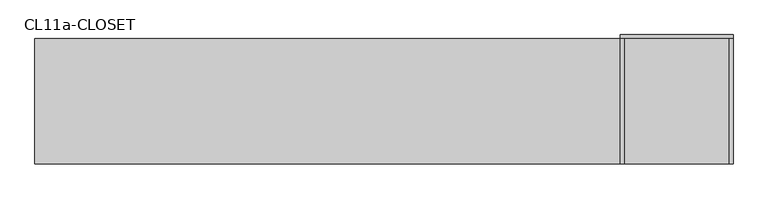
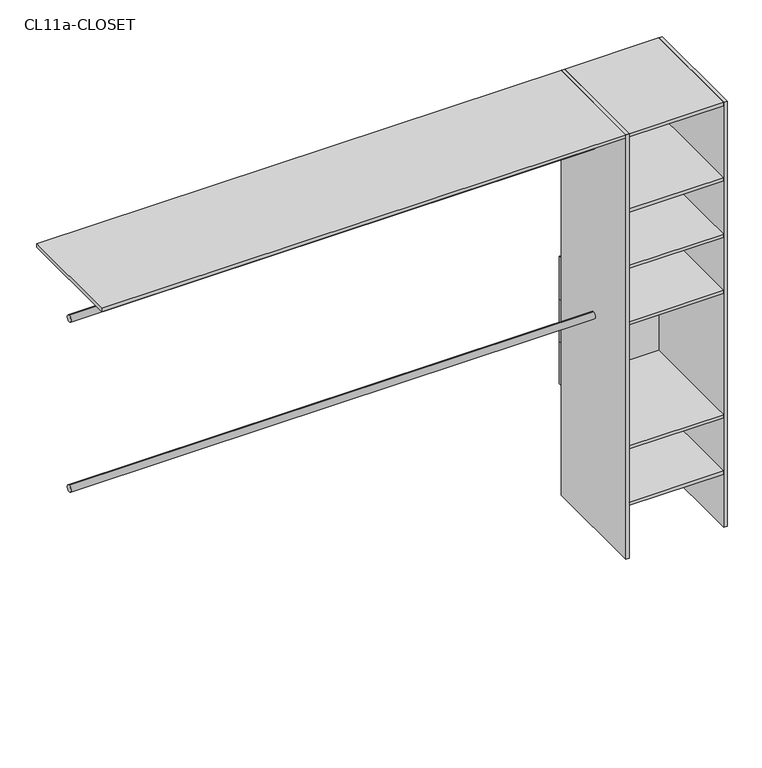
"""IFC4 building model written with IfcOpenShell, lengths in millimetres: furniture geometry, Closet 1estantes-1tubos_sin laterales : CL11a-CLOSET."""

from ifc_helpers import new_model, si_unit, point, frame, frame_2d, origin, origin_with_axes, place, context, project, spatial, polyline, circle_curve, trimmed, segment, composite_curve, outline, extrude, source, transform, mapped, element, save


def cl11a_closet_d79f7d52(model_context):
    return source(origin(), model_context, "Body", "SweptSolid", [
        extrude(outline(polyline([(225.0, -100.0), (225.0, -600.0), (210.0, -600.0), (210.0, -100.0), (225.0, -100.0)])), origin_with_axes(), (0.0, 0.0, 1.0), 2000.0),
        extrude(outline(polyline([(-210.0, -100.0), (-210.0, -600.0), (-225.0, -600.0), (-225.0, -100.0), (-210.0, -100.0)])), origin_with_axes(), (0.0, 0.0, 1.0), 2000.0),
        extrude(outline(polyline([(225.0, -100.0), (-225.0, -100.0), (-225.0, -85.0), (225.0, -85.0), (225.0, -100.0)])), frame((0.0, 0.0, 915.0), z_axis=(0.0, 0.0, 1.0), x_axis=(1.0, 0.0, 0.0)), (0.0, 0.0, 1.0), 200.0),
        extrude(outline(polyline([(225.0, -100.0), (-225.0, -100.0), (-225.0, -85.0), (225.0, -85.0), (225.0, -100.0)])), frame((0.0, 0.0, 715.0), z_axis=(0.0, 0.0, 1.0), x_axis=(1.0, 0.0, 0.0)), (0.0, 0.0, 1.0), 200.0),
        extrude(outline(polyline([(225.0, -100.0), (-225.0, -100.0), (-225.0, -85.0), (225.0, -85.0), (225.0, -100.0)])), frame((0.0, 0.0, 515.0), z_axis=(0.0, 0.0, 1.0), x_axis=(1.0, 0.0, 0.0)), (0.0, 0.0, 1.0), 200.0),
        extrude(outline(polyline([(210.0, -100.0), (210.0, -600.0), (-210.0, -600.0), (-210.0, -100.0), (210.0, -100.0)])), frame((0.0, 0.0, 1100.0), z_axis=(0.0, 0.0, 1.0), x_axis=(1.0, 0.0, 0.0)), (0.0, 0.0, 1.0), 15.0),
        extrude(outline(composite_curve([segment(trimmed(circle_curve(frame_2d((-350.0, 1000.0)), 15.0), [point((-350.0, 1015.0))], [point((-350.0, 985.0))], False, "CARTESIAN"), True, "CONTINUOUS"), segment(trimmed(circle_curve(frame_2d((-350.0, 1000.0)), 15.0), [point((-350.0, 985.0))], [point((-350.0, 1015.0))], False, "CARTESIAN"), True, "CONTINUOUS")], self_intersect=False)), frame((-2560.0, 0.0, 0.0), z_axis=(1.0, 0.0, 0.0), x_axis=(0.0, 1.0, 0.0)), (0.0, 0.0, 1.0), 2335.0),
        extrude(outline(composite_curve([segment(trimmed(circle_curve(frame_2d((-350.0, 1800.0)), 15.0), [point((-350.0, 1815.0))], [point((-350.0, 1785.0))], False, "CARTESIAN"), True, "CONTINUOUS"), segment(trimmed(circle_curve(frame_2d((-350.0, 1800.0)), 15.0), [point((-350.0, 1785.0))], [point((-350.0, 1815.0))], False, "CARTESIAN"), True, "CONTINUOUS")], self_intersect=False)), frame((-2560.0, 0.0, 0.0), z_axis=(1.0, 0.0, 0.0), x_axis=(0.0, 1.0, 0.0)), (0.0, 0.0, 1.0), 2335.0),
        extrude(outline(polyline([(210.0, -100.0), (210.0, -600.0), (-210.0, -600.0), (-210.0, -100.0), (210.0, -100.0)])), frame((0.0, 0.0, 250.0), z_axis=(0.0, 0.0, 1.0), x_axis=(1.0, 0.0, 0.0)), (0.0, 0.0, 1.0), 15.0),
        extrude(outline(polyline([(210.0, -100.0), (210.0, -600.0), (-210.0, -600.0), (-210.0, -100.0), (210.0, -100.0)])), frame((0.0, 0.0, 515.0), z_axis=(0.0, 0.0, 1.0), x_axis=(1.0, 0.0, 0.0)), (0.0, 0.0, 1.0), 15.0),
        extrude(outline(polyline([(210.0, -100.0), (210.0, -600.0), (-210.0, -600.0), (-210.0, -100.0), (210.0, -100.0)])), frame((0.0, 0.0, 1365.0), z_axis=(0.0, 0.0, 1.0), x_axis=(1.0, 0.0, 0.0)), (0.0, 0.0, 1.0), 15.0),
        extrude(outline(polyline([(210.0, -100.0), (210.0, -600.0), (-210.0, -600.0), (-210.0, -100.0), (210.0, -100.0)])), frame((0.0, 0.0, 1630.0), z_axis=(0.0, 0.0, 1.0), x_axis=(1.0, 0.0, 0.0)), (0.0, 0.0, 1.0), 15.0),
        extrude(outline(polyline([(-210.0, -100.0), (-210.0, -600.0), (-2560.0, -600.0), (-2560.0, -100.0), (-210.0, -100.0)])), frame((0.0, 0.0, 1985.0), z_axis=(0.0, 0.0, 1.0), x_axis=(1.0, 0.0, 0.0)), (0.0, 0.0, 1.0), 15.0),
        extrude(outline(polyline([(210.0, -100.0), (210.0, -600.0), (-210.0, -600.0), (-210.0, -100.0), (210.0, -100.0)])), frame((0.0, 0.0, 1985.0), z_axis=(0.0, 0.0, 1.0), x_axis=(1.0, 0.0, 0.0)), (0.0, 0.0, 1.0), 15.0),
    ])


if __name__ == "__main__":
    model = new_model("IFC4")
    model_context = context("Model", 3, world=origin())
    ifc_project = project(units=[si_unit("LENGTHUNIT", "METRE", prefix="MILLI")], contexts=[model_context])
    site = spatial("IfcSite", under=ifc_project)
    building = spatial("IfcBuilding", under=site)
    placement = place(None, origin())
    cl11a_closet_shape = cl11a_closet_d79f7d52(model_context)
    element("IfcFurniture", 1, ObjectType="Closet 1estantes-1tubos_sin laterales : CL11a-CLOSET", at=placement, inside=building, context=model_context, shape_type="MappedRepresentation", body=[
        mapped(cl11a_closet_shape, transform((0.0, 0.0, 0.0), x_axis=(1.0, 0.0, 0.0), y_axis=(0.0, 1.0, 0.0), z_axis=(0.0, 0.0, 1.0))),
    ])
    save(model, "model.ifc")
